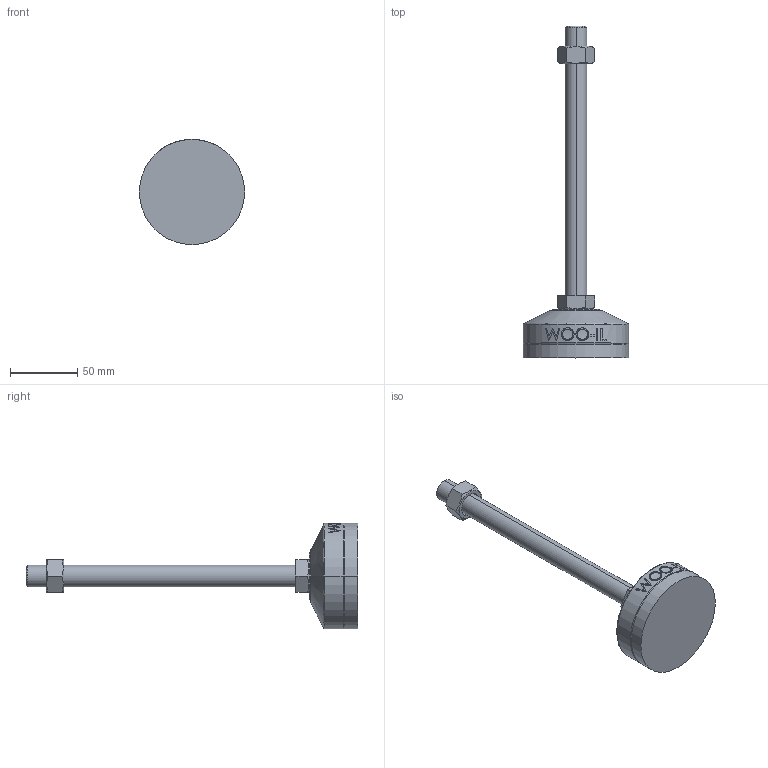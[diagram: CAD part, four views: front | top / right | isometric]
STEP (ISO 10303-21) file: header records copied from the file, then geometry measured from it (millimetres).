
FILE_DESCRIPTION (( 'STEP AP214' ), '1' );
FILE_NAME ('MFZR78-M16-200.step', '2021-03-29T06:57:52', ( '' ), ( '' ), 'SwSTEP 2.0', 'SolidWorks 2019', '' );
FILE_SCHEMA (( 'AUTOMOTIVE_DESIGN' ));
Length unit declared in the file: millimetre
Products named in the file (2): MFZR78-M16-200
Bounding box: 78 x 246 x 78 mm (x, y, z)
Volume: 198074.7 mm3; surface area: 39764.6 mm2
Topology: 4 solids, 4 shells, 103 faces, 235 edges, 150 vertices
Faces by surface type: plane 49, cylinder 18, bspline 16, cone 14, torus 6
Entity records: 4499 total; most frequent: CARTESIAN_POINT 2226, ORIENTED_EDGE 470, DIRECTION 417, EDGE_CURVE 235, AXIS2_PLACEMENT_3D 159, VERTEX_POINT 150, EDGE_LOOP 115, FACE_OUTER_BOUND 103
